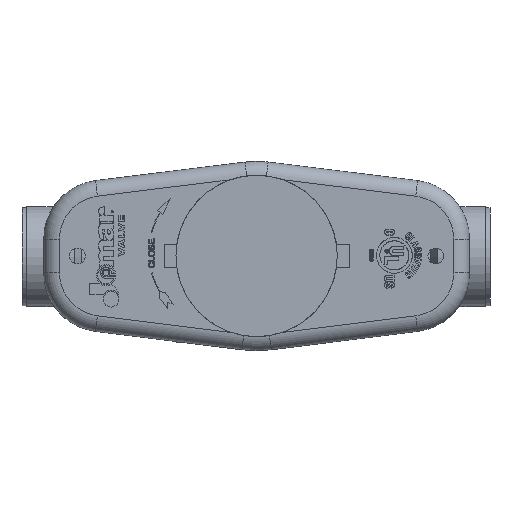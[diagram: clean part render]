
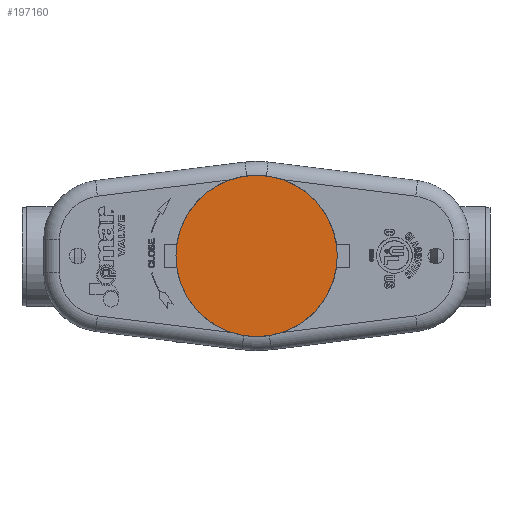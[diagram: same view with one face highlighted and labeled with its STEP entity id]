
A CAD part, top view. The second image highlights one B-rep face of the part: STEP entity #197160.
In plain terms, the highlighted planar face has unit normal (0, 0, 1).
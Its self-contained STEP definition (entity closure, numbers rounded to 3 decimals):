
#196952 = CYLINDRICAL_SURFACE('',#196953,0.61);
#196953 = AXIS2_PLACEMENT_3D('',#196954,#196955,#196956);
#196954 = CARTESIAN_POINT('',(1.775,0.,
    2.899));
#196955 = DIRECTION('',(0.,0.,-1.));
#196956 = DIRECTION('',(0.,-1.,0.));
#197027 = VERTEX_POINT('',#197028);
#197028 = CARTESIAN_POINT('',(1.775,-0.61,
    2.899));
#197048 = EDGE_CURVE('',#197027,#197027,#197049,.T.);
#197049 = SURFACE_CURVE('',#197050,(#197055,#197062),.PCURVE_S1.);
#197050 = CIRCLE('',#197051,0.61);
#197051 = AXIS2_PLACEMENT_3D('',#197052,#197053,#197054);
#197052 = CARTESIAN_POINT('',(1.775,0.,
    2.899));
#197053 = DIRECTION('',(0.,0.,1.));
#197054 = DIRECTION('',(0.,-1.,0.));
#197055 = PCURVE('',#196952,#197056);
#197056 = DEFINITIONAL_REPRESENTATION('',(#197057),#197061);
#197057 = LINE('',#197058,#197059);
#197058 = CARTESIAN_POINT('',(6.283,0.));
#197059 = VECTOR('',#197060,1.);
#197060 = DIRECTION('',(-1.,0.));
#197061 = ( GEOMETRIC_REPRESENTATION_CONTEXT(2) 
PARAMETRIC_REPRESENTATION_CONTEXT() REPRESENTATION_CONTEXT('2D SPACE',''
  ) );
#197062 = PCURVE('',#197063,#197068);
#197063 = PLANE('',#197064);
#197064 = AXIS2_PLACEMENT_3D('',#197065,#197066,#197067);
#197065 = CARTESIAN_POINT('',(1.775,0.,
    2.899));
#197066 = DIRECTION('',(0.,0.,1.));
#197067 = DIRECTION('',(0.,-1.,0.));
#197068 = DEFINITIONAL_REPRESENTATION('',(#197069),#197073);
#197069 = CIRCLE('',#197070,0.61);
#197070 = AXIS2_PLACEMENT_2D('',#197071,#197072);
#197071 = CARTESIAN_POINT('',(0.,0.));
#197072 = DIRECTION('',(1.,0.));
#197073 = ( GEOMETRIC_REPRESENTATION_CONTEXT(2) 
PARAMETRIC_REPRESENTATION_CONTEXT() REPRESENTATION_CONTEXT('2D SPACE',''
  ) );
#197160 = ADVANCED_FACE('',(#197161),#197063,.T.);
#197161 = FACE_BOUND('',#197162,.T.);
#197162 = EDGE_LOOP('',(#197163));
#197163 = ORIENTED_EDGE('',*,*,#197048,.T.);
